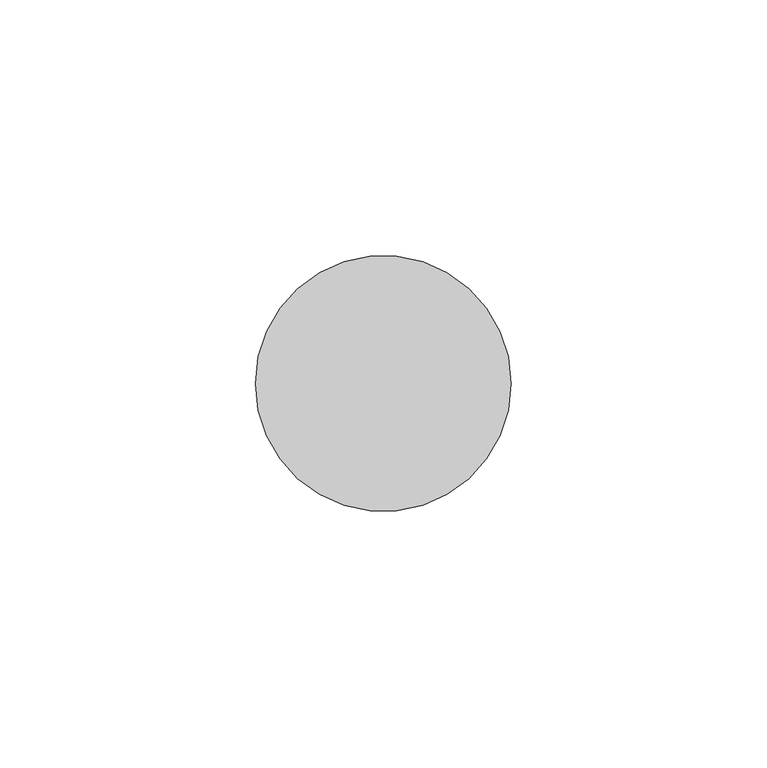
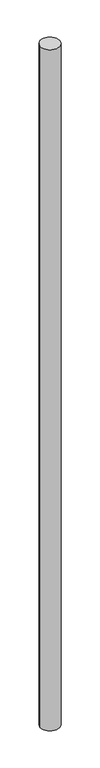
"""IFC4 building model written with IfcOpenShell, lengths in millimetres: member geometry, 圓形豎框 : 25mm 半徑."""

from ifc_helpers import new_model, si_unit, point, frame, origin, origin_2d, place, context, project, spatial, circle_curve, trimmed, segment, composite_curve, outline, extrude, source, transform, mapped, element, save


def member_7ddd8d92(model_context):
    return source(origin(), model_context, "Body", "SweptSolid", [
        extrude(outline(composite_curve([segment(trimmed(circle_curve(origin_2d(), 25.0), [point((25.0, 0.0))], [point((-25.0, 0.0))], False, "CARTESIAN"), True, "CONTINUOUS"), segment(trimmed(circle_curve(origin_2d(), 25.0), [point((-25.0, 0.0))], [point((25.0, 0.0))], False, "CARTESIAN"), True, "CONTINUOUS")], self_intersect=False)), frame((0.0, 0.0, -1867.3602202), z_axis=(0.0, 0.0, 1.0), x_axis=(1.0, 0.0, 0.0)), (0.0, 0.0, 1.0), 1867.3602202),
    ])


if __name__ == "__main__":
    model = new_model("IFC4")
    model_context = context("Model", 3, world=origin())
    ifc_project = project(units=[si_unit("LENGTHUNIT", "METRE", prefix="MILLI")], contexts=[model_context])
    site = spatial("IfcSite", under=ifc_project)
    building = spatial("IfcBuilding", under=site)
    placement = place(None, origin())
    member_shape = member_7ddd8d92(model_context)
    element("IfcMember", 1, ObjectType="圓形豎框 : 25mm 半徑", at=placement, inside=building, context=model_context, shape_type="MappedRepresentation", body=[
        mapped(member_shape, transform((0.0, 0.0, 0.0), x_axis=(1.0, 0.0, 0.0), y_axis=(0.0, 1.0, 0.0), z_axis=(0.0, 0.0, 1.0))),
    ])
    save(model, "model.ifc")
